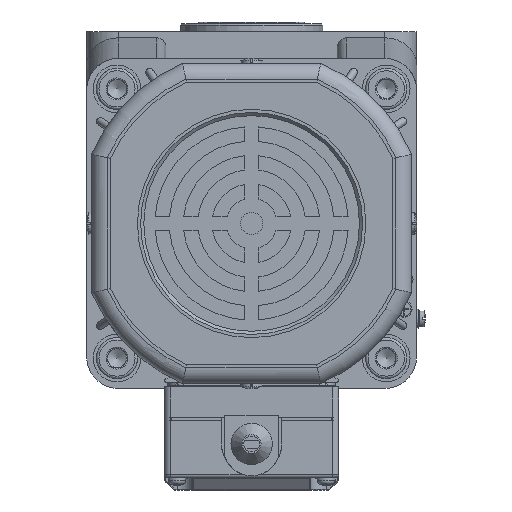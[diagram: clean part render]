
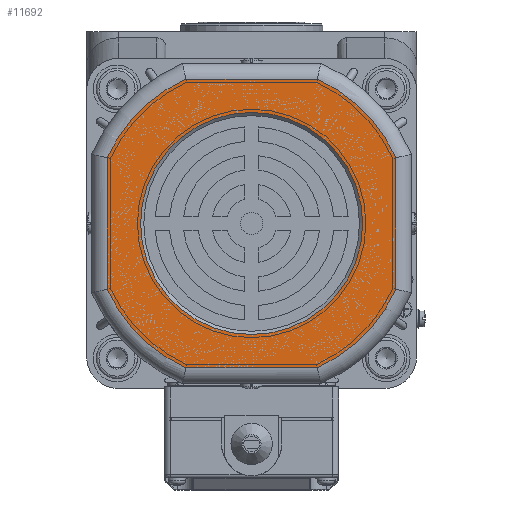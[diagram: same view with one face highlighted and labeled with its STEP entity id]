
A CAD part, left-side view. The second image highlights one B-rep face of the part: STEP entity #11692.
In plain terms, the highlighted planar face has unit normal (-1, 0, 0).
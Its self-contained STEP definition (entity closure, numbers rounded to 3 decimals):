
#2986=PLANE('',#42601);
#6790=LINE('',#62692,#9409);
#6791=LINE('',#62697,#9410);
#6792=LINE('',#62701,#9411);
#6793=LINE('',#62705,#9412);
#9409=VECTOR('',#49664,1.);
#9410=VECTOR('',#49667,1.);
#9411=VECTOR('',#49670,1.);
#9412=VECTOR('',#49673,1.);
#11692=ADVANCED_FACE('',(#13695,#13696),#2986,.F.);
#13695=FACE_BOUND('',#15405,.T.);
#13696=FACE_BOUND('',#15406,.T.);
#15405=EDGE_LOOP('',(#21507,#21508,#21509,#21510,#21511,#21512,#21513,#21514));
#15406=EDGE_LOOP('',(#21515));
#21507=ORIENTED_EDGE('',*,*,#35014,.T.);
#21508=ORIENTED_EDGE('',*,*,#35015,.T.);
#21509=ORIENTED_EDGE('',*,*,#35016,.T.);
#21510=ORIENTED_EDGE('',*,*,#35017,.T.);
#21511=ORIENTED_EDGE('',*,*,#35018,.T.);
#21512=ORIENTED_EDGE('',*,*,#35019,.T.);
#21513=ORIENTED_EDGE('',*,*,#35020,.T.);
#21514=ORIENTED_EDGE('',*,*,#35021,.T.);
#21515=ORIENTED_EDGE('',*,*,#35022,.T.);
#30457=VERTEX_POINT('',#62693);
#30458=VERTEX_POINT('',#62694);
#30459=VERTEX_POINT('',#62696);
#30460=VERTEX_POINT('',#62698);
#30461=VERTEX_POINT('',#62700);
#30462=VERTEX_POINT('',#62702);
#30463=VERTEX_POINT('',#62704);
#30464=VERTEX_POINT('',#62706);
#30465=VERTEX_POINT('',#62709);
#35014=EDGE_CURVE('',#30457,#30458,#6790,.T.);
#35015=EDGE_CURVE('',#30458,#30459,#39704,.T.);
#35016=EDGE_CURVE('',#30459,#30460,#6791,.T.);
#35017=EDGE_CURVE('',#30460,#30461,#39705,.T.);
#35018=EDGE_CURVE('',#30461,#30462,#6792,.T.);
#35019=EDGE_CURVE('',#30462,#30463,#39706,.T.);
#35020=EDGE_CURVE('',#30463,#30464,#6793,.T.);
#35021=EDGE_CURVE('',#30464,#30457,#39707,.T.);
#35022=EDGE_CURVE('',#30465,#30465,#39708,.T.);
#39704=CIRCLE('',#42596,50.);
#39705=CIRCLE('',#42597,50.);
#39706=CIRCLE('',#42598,50.);
#39707=CIRCLE('',#42599,50.);
#39708=CIRCLE('',#42600,35.);
#42596=AXIS2_PLACEMENT_3D('',#62695,#49665,#49666);
#42597=AXIS2_PLACEMENT_3D('',#62699,#49668,#49669);
#42598=AXIS2_PLACEMENT_3D('',#62703,#49671,#49672);
#42599=AXIS2_PLACEMENT_3D('',#62707,#49674,#49675);
#42600=AXIS2_PLACEMENT_3D('',#62708,#49676,#49677);
#42601=AXIS2_PLACEMENT_3D('',#62710,#49678,#49679);
#49664=DIRECTION('',(0.,-1.,0.));
#49665=DIRECTION('',(-1.,0.,0.));
#49666=DIRECTION('',(0.,0.,1.));
#49667=DIRECTION('',(0.,0.,1.));
#49668=DIRECTION('',(-1.,0.,0.));
#49669=DIRECTION('',(0.,0.,1.));
#49670=DIRECTION('',(0.,1.,0.));
#49671=DIRECTION('',(-1.,0.,0.));
#49672=DIRECTION('',(0.,0.,1.));
#49673=DIRECTION('',(0.,0.,-1.));
#49674=DIRECTION('',(-1.,0.,0.));
#49675=DIRECTION('',(0.,0.,1.));
#49676=DIRECTION('',(1.,0.,0.));
#49677=DIRECTION('',(0.,-1.,0.));
#49678=DIRECTION('',(1.,0.,0.));
#49679=DIRECTION('',(0.,0.,1.));
#62692=CARTESIAN_POINT('',(-246.8,-142.46,-103.991));
#62693=CARTESIAN_POINT('',(-246.8,-99.941,-103.991));
#62694=CARTESIAN_POINT('',(-246.8,-141.402,-103.991));
#62695=CARTESIAN_POINT('',(-246.8,-120.671,-58.491));
#62696=CARTESIAN_POINT('',(-246.8,-166.171,-79.221));
#62697=CARTESIAN_POINT('',(-246.8,-166.171,-36.702));
#62698=CARTESIAN_POINT('',(-246.8,-166.171,-37.76));
#62699=CARTESIAN_POINT('',(-246.8,-120.671,-58.491));
#62700=CARTESIAN_POINT('',(-246.8,-141.402,-12.991));
#62701=CARTESIAN_POINT('',(-246.8,-98.882,-12.991));
#62702=CARTESIAN_POINT('',(-246.8,-99.941,-12.991));
#62703=CARTESIAN_POINT('',(-246.8,-120.671,-58.491));
#62704=CARTESIAN_POINT('',(-246.8,-75.171,-37.76));
#62705=CARTESIAN_POINT('',(-246.8,-75.171,-80.28));
#62706=CARTESIAN_POINT('',(-246.8,-75.171,-79.221));
#62707=CARTESIAN_POINT('',(-246.8,-120.671,-58.491));
#62708=CARTESIAN_POINT('',(-246.8,-120.671,-58.491));
#62709=CARTESIAN_POINT('',(-246.8,-155.671,-58.491));
#62710=CARTESIAN_POINT('',(-246.8,-120.671,-58.491));
